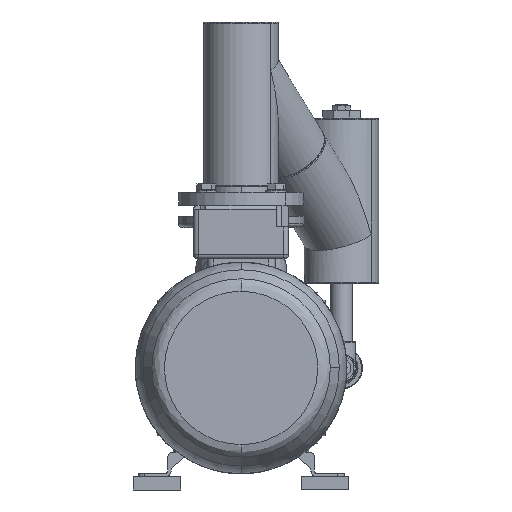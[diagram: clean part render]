
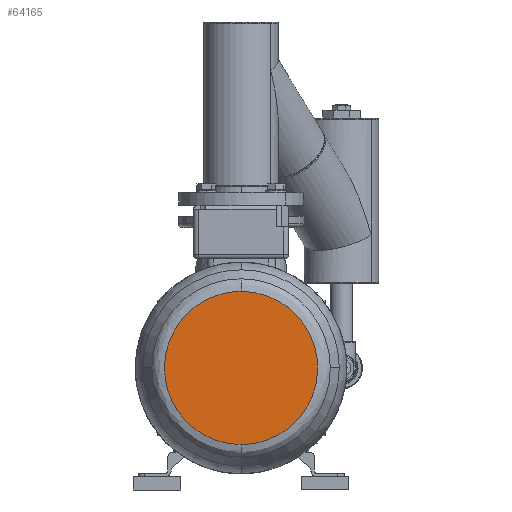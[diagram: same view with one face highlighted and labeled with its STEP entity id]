
A CAD part, front view. The second image highlights one B-rep face of the part: STEP entity #64165.
In plain terms, the highlighted planar face has unit normal (0, -1, 0).
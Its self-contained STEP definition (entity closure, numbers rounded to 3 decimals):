
#36317 = VERTEX_POINT ( 'NONE', #112223 ) ;
#36865 = EDGE_CURVE ( 'NONE', #36317, #37745, #112853, .T. ) ;
#37745 = VERTEX_POINT ( 'NONE', #113769 ) ;
#63814 = ORIENTED_EDGE ( 'NONE', *, *, #36865, .F. ) ;
#63852 = EDGE_LOOP ( 'NONE', ( #63814, #63949 ) ) ;
#63949 = ORIENTED_EDGE ( 'NONE', *, *, #64110, .F. ) ;
#64110 = EDGE_CURVE ( 'NONE', #37745, #36317, #124500, .T. ) ;
#64165 = ADVANCED_FACE ( 'NONE', ( #124533 ), #124534, .T. ) ;
#112223 = CARTESIAN_POINT ( 'NONE',  ( -154.478, -920.216, -87.932 ) ) ;
#112838 = CARTESIAN_POINT ( 'NONE',  ( -154.478, -920.216, 137.932 ) ) ;
#112840 = CARTESIAN_POINT ( 'NONE',  ( -380.343, -920.216, 137.932 ) ) ;
#112841 = CARTESIAN_POINT ( 'NONE',  ( -380.343, -920.216, -87.932 ) ) ;
#112843 = CARTESIAN_POINT ( 'NONE',  ( -154.478, -920.216, -87.932 ) ) ;
#112853 =( BOUNDED_CURVE ( )  B_SPLINE_CURVE ( 3, ( #112843, #112841, #112840, #112838 ),
 .UNSPECIFIED., .F., .T. ) 
 B_SPLINE_CURVE_WITH_KNOTS ( ( 4, 4 ),
 ( 0., 1. ),
 .UNSPECIFIED. ) 
 CURVE ( )  GEOMETRIC_REPRESENTATION_ITEM ( )  RATIONAL_B_SPLINE_CURVE ( ( 1., 0.333, 0.333, 1. ) ) 
 REPRESENTATION_ITEM ( '' )  );
#113769 = CARTESIAN_POINT ( 'NONE',  ( -154.478, -920.216, 137.932 ) ) ;
#124486 = CARTESIAN_POINT ( 'NONE',  ( 71.387, -920.216, 137.932 ) ) ;
#124488 = CARTESIAN_POINT ( 'NONE',  ( -154.478, -920.216, 137.932 ) ) ;
#124500 =( BOUNDED_CURVE ( )  B_SPLINE_CURVE ( 3, ( #124488, #124486, #124604, #124603 ),
 .UNSPECIFIED., .F., .T. ) 
 B_SPLINE_CURVE_WITH_KNOTS ( ( 4, 4 ),
 ( 0., 1. ),
 .UNSPECIFIED. ) 
 CURVE ( )  GEOMETRIC_REPRESENTATION_ITEM ( )  RATIONAL_B_SPLINE_CURVE ( ( 1., 0.333, 0.333, 1. ) ) 
 REPRESENTATION_ITEM ( '' )  );
#124519 = DIRECTION ( 'NONE',  ( 0., -1., 0. ) ) ;
#124520 = CARTESIAN_POINT ( 'NONE',  ( -154.478, -920.216, 25. ) ) ;
#124530 = AXIS2_PLACEMENT_3D ( 'NONE', #124520, #124519, #124591 ) ;
#124533 = FACE_OUTER_BOUND ( 'NONE', #63852, .T. ) ;
#124534 = PLANE ( 'NONE',  #124530 ) ;
#124591 = DIRECTION ( 'NONE',  ( 1., 0., 0. ) ) ;
#124603 = CARTESIAN_POINT ( 'NONE',  ( -154.478, -920.216, -87.932 ) ) ;
#124604 = CARTESIAN_POINT ( 'NONE',  ( 71.387, -920.216, -87.932 ) ) ;
